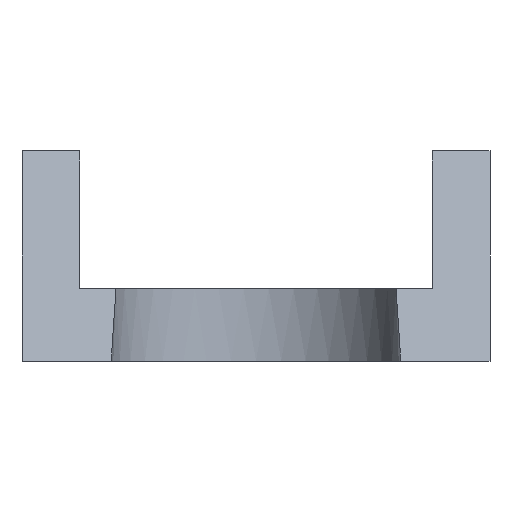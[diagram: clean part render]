
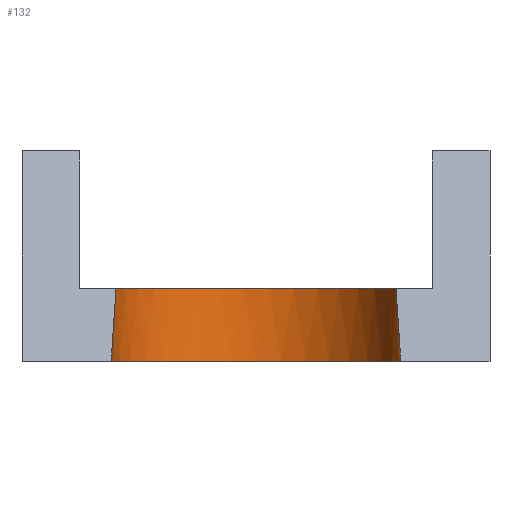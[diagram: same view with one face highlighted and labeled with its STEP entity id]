
A CAD part, front view. The second image highlights one B-rep face of the part: STEP entity #132.
In plain terms, the highlighted cylindrical face has radius 2 mm (diameter 4 mm), a partial arc.
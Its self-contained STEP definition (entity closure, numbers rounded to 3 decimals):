
#17 = ORIENTED_EDGE ( 'NONE', *, *, #338, .F. ) ;
#23 = CARTESIAN_POINT ( 'NONE',  ( 1.57, -250., 2.9 ) ) ;
#29 = EDGE_LOOP ( 'NONE', ( #299, #17, #56, #272 ) ) ;
#56 = ORIENTED_EDGE ( 'NONE', *, *, #801, .T. ) ;
#58 = CARTESIAN_POINT ( 'NONE',  ( -0.43, -249.825, 0.338 ) ) ;
#65 = CIRCLE ( 'NONE', #551, 2. ) ;
#73 = VERTEX_POINT ( 'NONE', #114 ) ;
#114 = CARTESIAN_POINT ( 'NONE',  ( -0.43, -250., 0. ) ) ;
#115 = DIRECTION ( 'NONE',  ( -1., 0., 0. ) ) ;
#121 = DIRECTION ( 'NONE',  ( 0., 0., 1. ) ) ;
#132 = ADVANCED_FACE ( 'NONE', ( #148 ), #264, .F. ) ;
#135 = CIRCLE ( 'NONE', #584, 2. ) ;
#148 = FACE_OUTER_BOUND ( 'NONE', #29, .T. ) ;
#179 = VERTEX_POINT ( 'NONE', #271 ) ;
#186 = DIRECTION ( 'NONE',  ( 1., 0., 0. ) ) ;
#212 = DIRECTION ( 'NONE',  ( -1., 0., 0. ) ) ;
#254 = CARTESIAN_POINT ( 'NONE',  ( 3.502, -249.483, 1. ) ) ;
#264 = CYLINDRICAL_SURFACE ( 'NONE', #508, 2. ) ;
#271 = CARTESIAN_POINT ( 'NONE',  ( -0.362, -249.483, 1. ) ) ;
#272 = ORIENTED_EDGE ( 'NONE', *, *, #514, .F. ) ;
#299 = ORIENTED_EDGE ( 'NONE', *, *, #710, .T. ) ;
#307 = CARTESIAN_POINT ( 'NONE',  ( -0.407, -249.652, 0.673 ) ) ;
#338 = EDGE_CURVE ( 'NONE', #384, #530, #698, .T. ) ;
#339 = DIRECTION ( 'NONE',  ( 0., 0., -1. ) ) ;
#366 = CARTESIAN_POINT ( 'NONE',  ( 1.57, -250., 1. ) ) ;
#367 = CARTESIAN_POINT ( 'NONE',  ( 3.57, -249.825, 0.338 ) ) ;
#384 = VERTEX_POINT ( 'NONE', #254 ) ;
#413 = DIRECTION ( 'NONE',  ( 0., 0., -1. ) ) ;
#422 = CARTESIAN_POINT ( 'NONE',  ( 1.57, -250., 0. ) ) ;
#490 = CARTESIAN_POINT ( 'NONE',  ( 3.57, -250., 0. ) ) ;
#508 = AXIS2_PLACEMENT_3D ( 'NONE', #23, #339, #212 ) ;
#514 = EDGE_CURVE ( 'NONE', #73, #179, #520, .T. ) ;
#520 =( BOUNDED_CURVE ( )  B_SPLINE_CURVE ( 3, ( #633, #58, #307, #828 ),
 .UNSPECIFIED., .F., .T. ) 
 B_SPLINE_CURVE_WITH_KNOTS ( ( 4, 4 ),
 ( 1.571, 1.832 ),
 .UNSPECIFIED. ) 
 CURVE ( )  GEOMETRIC_REPRESENTATION_ITEM ( )  RATIONAL_B_SPLINE_CURVE ( ( 1., 0.994, 0.994, 1. ) ) 
 REPRESENTATION_ITEM ( '' )  );
#521 = CARTESIAN_POINT ( 'NONE',  ( 3.57, -250., 0. ) ) ;
#530 = VERTEX_POINT ( 'NONE', #521 ) ;
#536 = CARTESIAN_POINT ( 'NONE',  ( 3.502, -249.483, 1. ) ) ;
#551 = AXIS2_PLACEMENT_3D ( 'NONE', #422, #413, #115 ) ;
#584 = AXIS2_PLACEMENT_3D ( 'NONE', #366, #121, #186 ) ;
#633 = CARTESIAN_POINT ( 'NONE',  ( -0.43, -250., 0. ) ) ;
#698 =( BOUNDED_CURVE ( )  B_SPLINE_CURVE ( 3, ( #536, #749, #367, #490 ),
 .UNSPECIFIED., .F., .T. ) 
 B_SPLINE_CURVE_WITH_KNOTS ( ( 4, 4 ),
 ( 4.451, 4.712 ),
 .UNSPECIFIED. ) 
 CURVE ( )  GEOMETRIC_REPRESENTATION_ITEM ( )  RATIONAL_B_SPLINE_CURVE ( ( 1., 0.994, 0.994, 1. ) ) 
 REPRESENTATION_ITEM ( '' )  );
#710 = EDGE_CURVE ( 'NONE', #73, #530, #65, .T. ) ;
#749 = CARTESIAN_POINT ( 'NONE',  ( 3.547, -249.652, 0.673 ) ) ;
#801 = EDGE_CURVE ( 'NONE', #384, #179, #135, .T. ) ;
#828 = CARTESIAN_POINT ( 'NONE',  ( -0.362, -249.483, 1. ) ) ;
